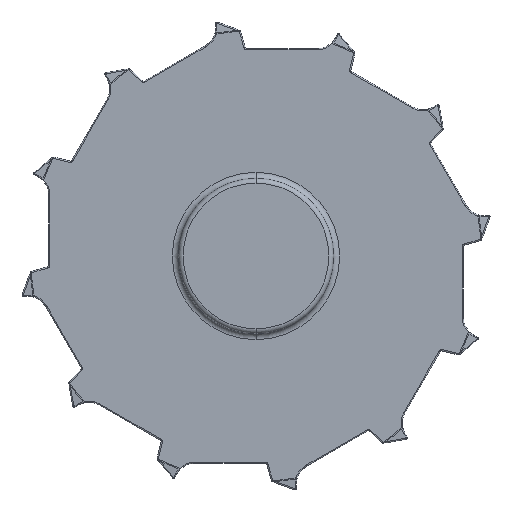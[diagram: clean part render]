
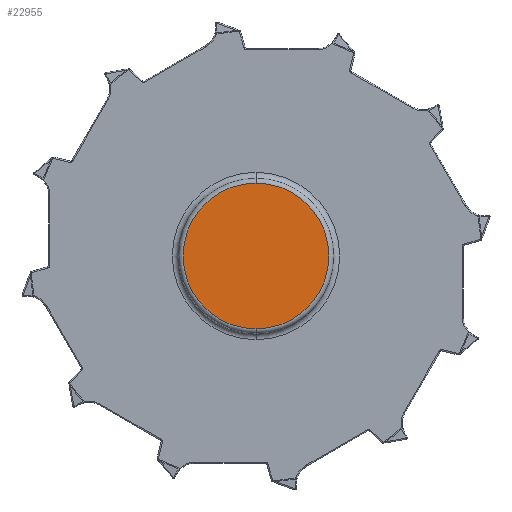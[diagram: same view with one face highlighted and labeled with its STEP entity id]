
A CAD part, left-side view. The second image highlights one B-rep face of the part: STEP entity #22955.
In plain terms, the highlighted planar face has unit normal (-1, 0, 0).
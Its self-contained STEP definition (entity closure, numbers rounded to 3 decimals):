
#6703=CARTESIAN_POINT('',(-21.15,0.,0.));
#6704=DIRECTION('',(-1.,0.,0.));
#6705=DIRECTION('',(0.,0.,1.));
#6706=AXIS2_PLACEMENT_3D('',#6703,#6704,#6705);
#6711=CARTESIAN_POINT('',(-21.15,0.,0.));
#6712=DIRECTION('',(1.,0.,0.));
#6713=DIRECTION('',(0.,0.,1.));
#6714=AXIS2_PLACEMENT_3D('',#6711,#6712,#6713);
#16994=CARTESIAN_POINT('',(-21.15,0.,30.5));
#16995=VERTEX_POINT('',#16994);
#17010=CARTESIAN_POINT('',(-21.15,0.,-30.5));
#17011=VERTEX_POINT('',#17010);
#22946=CARTESIAN_POINT('',(-21.15,0.,0.));
#22947=DIRECTION('',(1.,0.,0.));
#22948=DIRECTION('',(0.,0.,-1.));
#22949=AXIS2_PLACEMENT_3D('',#22946,#22947,#22948);
#22950=PLANE('',#22949);
#22951=ORIENTED_EDGE('',*,*,#22925,.F.);
#22952=ORIENTED_EDGE('',*,*,#22941,.T.);
#22953=EDGE_LOOP('',(#22951,#22952));
#22954=FACE_OUTER_BOUND('',#22953,.F.);
#6707=CIRCLE('',#6706,30.5);
#6715=CIRCLE('',#6714,30.5);
#22925=EDGE_CURVE('',#16995,#17011,#6707,.T.);
#22941=EDGE_CURVE('',#16995,#17011,#6715,.T.);
#22955=ADVANCED_FACE('',(#22954),#22950,.F.);
